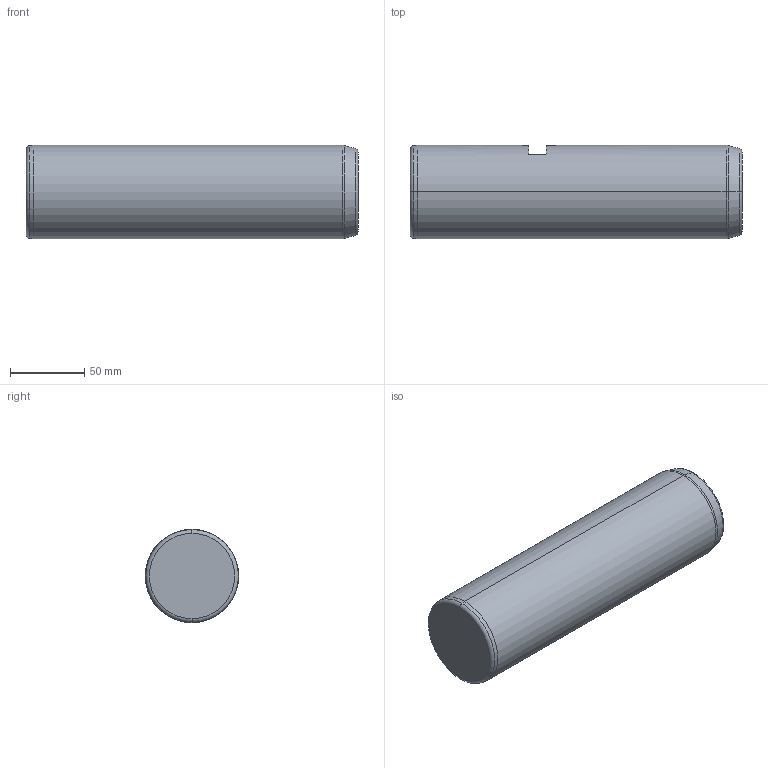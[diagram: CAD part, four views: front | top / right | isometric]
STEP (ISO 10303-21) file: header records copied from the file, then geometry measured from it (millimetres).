
FILE_DESCRIPTION (( 'STEP AP214' ), '1' );
FILE_NAME ('SP202-08-63-224.STEP', '2020-11-03T14:22:52', ( '' ), ( '' ), 'SwSTEP 2.0', 'SolidWorks 2018', '' );
FILE_SCHEMA (( 'AUTOMOTIVE_DESIGN' ));
Length unit declared in the file: millimetre
Products named in the file (1): SP202-08-63-224
Bounding box: 224 x 63 x 63 mm (x, y, z)
Volume: 688842.6 mm3; surface area: 51209.6 mm2
Topology: 1 solids, 1 shells, 26 faces, 54 edges, 31 vertices
Faces by surface type: cylinder 8, cone 6, torus 6, plane 6
Entity records: 744 total; most frequent: CARTESIAN_POINT 150, DIRECTION 132, ORIENTED_EDGE 104, AXIS2_PLACEMENT_3D 57, EDGE_CURVE 52, VERTEX_POINT 31, CIRCLE 30, EDGE_LOOP 29
